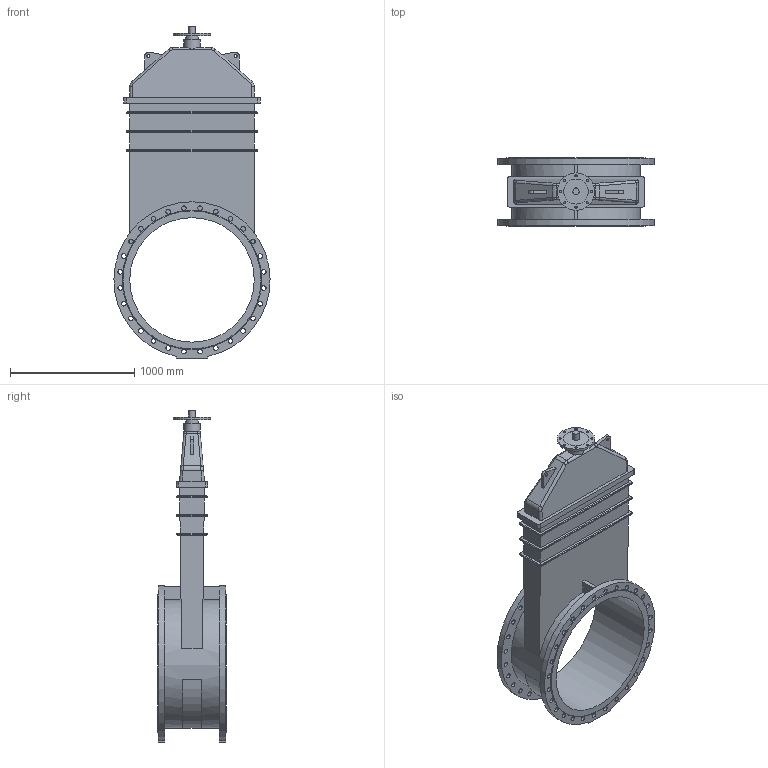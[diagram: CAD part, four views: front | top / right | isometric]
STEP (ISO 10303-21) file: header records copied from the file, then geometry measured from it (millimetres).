
FILE_DESCRIPTION(('STEP AP203'), '1');
FILE_NAME('Çàäâèæêà 47GVA DN1000 PN10_F25 áåç èñïîëíèò. ìåõ.', '', ('UNSPECIFIED'), ('UNSPECIFIED'), 'ASCON STEP Converter 1.6', 'ASCON Math Kernel', '');
FILE_SCHEMA(('CONFIG_CONTROL_DESIGN'));
Length unit declared in the file: millimetre
Bounding box: 1254.88 x 550 x 2667.5 mm (x, y, z)
Volume: 328160743.2 mm3; surface area: 9486185.7 mm2
Topology: 1 solids, 1 shells, 273 faces, 678 edges, 430 vertices
Faces by surface type: cylinder 142, plane 97, bspline 32, cone 2
Full cylindrical faces by diameter (mm): 18 x8, 25 x2, 37 x56, 50 x1, 100 x1, 130 x1, 200 x1, 300 x1, 1000 x1
Entity records: 12799 total; most frequent: CARTESIAN_POINT 4237, DIRECTION 1252, ORIENTED_EDGE 1208, EDGE_CURVE 604, EDGE_LOOP 504, AXIS2_PLACEMENT_3D 490, VERTEX_POINT 430, FACE_BOUND 357
